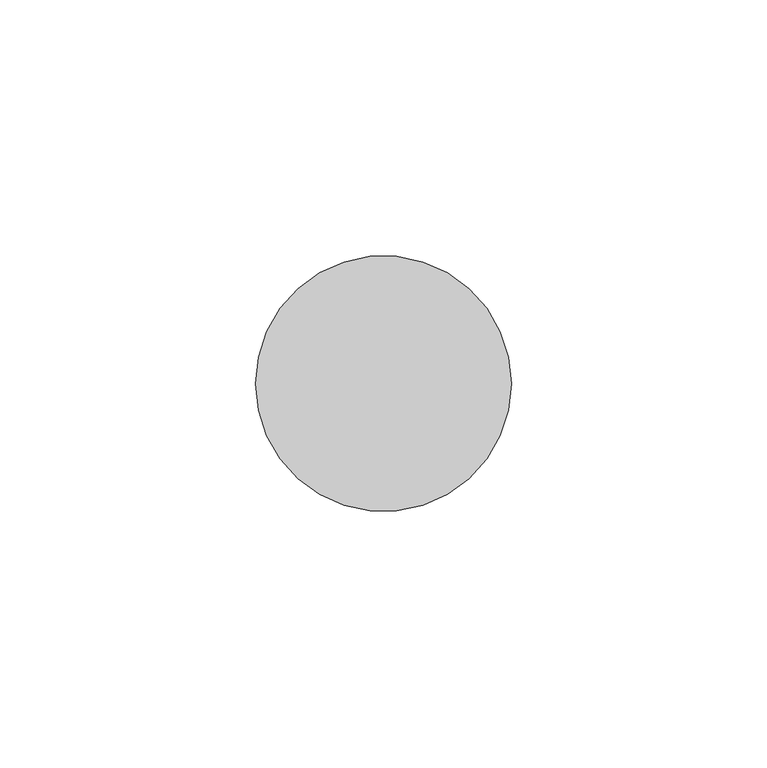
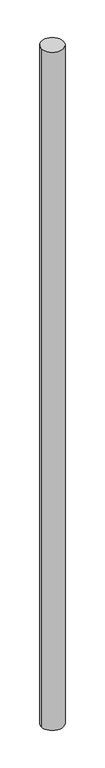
"""IFC4 building model written with IfcOpenShell, lengths in millimetres: member geometry, 圓形豎框 : 25mm 半徑."""

from ifc_helpers import new_model, si_unit, point, frame, origin, origin_2d, place, context, project, spatial, circle_curve, trimmed, segment, composite_curve, outline, extrude, source, transform, mapped, element, save


def member_b906242a(model_context):
    return source(origin(), model_context, "Body", "SweptSolid", [
        extrude(outline(composite_curve([segment(trimmed(circle_curve(origin_2d(), 25.0), [point((25.0, 0.0))], [point((-25.0, 0.0))], False, "CARTESIAN"), True, "CONTINUOUS"), segment(trimmed(circle_curve(origin_2d(), 25.0), [point((-25.0, 0.0))], [point((25.0, 0.0))], False, "CARTESIAN"), True, "CONTINUOUS")], self_intersect=False)), frame((0.0, 0.0, -1623.0034195), z_axis=(0.0, 0.0, 1.0), x_axis=(1.0, 0.0, 0.0)), (0.0, 0.0, 1.0), 1623.0034195),
    ])


if __name__ == "__main__":
    model = new_model("IFC4")
    model_context = context("Model", 3, world=origin())
    ifc_project = project(units=[si_unit("LENGTHUNIT", "METRE", prefix="MILLI")], contexts=[model_context])
    site = spatial("IfcSite", under=ifc_project)
    building = spatial("IfcBuilding", under=site)
    placement = place(None, origin())
    member_shape = member_b906242a(model_context)
    element("IfcMember", 1, ObjectType="圓形豎框 : 25mm 半徑", at=placement, inside=building, context=model_context, shape_type="MappedRepresentation", body=[
        mapped(member_shape, transform((0.0, 0.0, 0.0), x_axis=(1.0, 0.0, 0.0), y_axis=(0.0, 1.0, 0.0), z_axis=(0.0, 0.0, 1.0))),
    ])
    save(model, "model.ifc")
